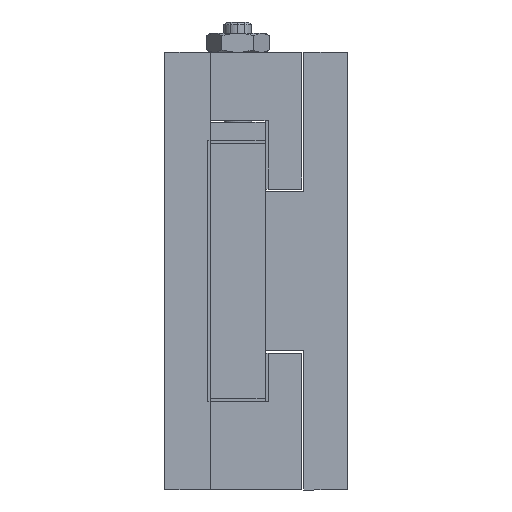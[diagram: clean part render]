
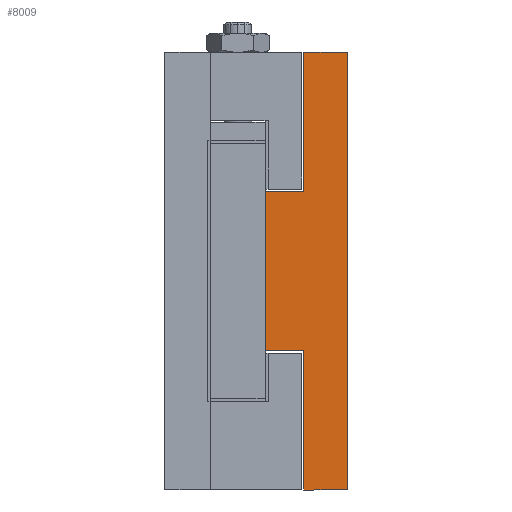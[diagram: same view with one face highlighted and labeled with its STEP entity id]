
A CAD part, left-side view. The second image highlights one B-rep face of the part: STEP entity #8009.
In plain terms, the highlighted planar face has unit normal (-1, 0, 0).
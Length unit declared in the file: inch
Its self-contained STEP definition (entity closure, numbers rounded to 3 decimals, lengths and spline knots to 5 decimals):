
#52 = ORIENTED_EDGE ( 'NONE', *, *, #8024, .T. ) ;
#3123 = CARTESIAN_POINT ( 'NONE',  ( 0., 0.5625, -0.54688 ) ) ;
#3210 = LINE ( 'NONE', #3215, #3274 ) ;
#3214 = DIRECTION ( 'NONE',  ( 0., 0., 1. ) ) ;
#3215 = CARTESIAN_POINT ( 'NONE',  ( 0., 0.5625, 1.5 ) ) ;
#3241 = CARTESIAN_POINT ( 'NONE',  ( 0., 0.5625, 0.54688 ) ) ;
#3274 = VECTOR ( 'NONE', #3214, 39.37008 ) ;
#3520 = CARTESIAN_POINT ( 'NONE',  ( 0., 0., 1.5 ) ) ;
#3521 = LINE ( 'NONE', #3520, #3567 ) ;
#3566 = DIRECTION ( 'NONE',  ( 0., 0., -1. ) ) ;
#3567 = VECTOR ( 'NONE', #3566, 39.37008 ) ;
#4619 = CARTESIAN_POINT ( 'NONE',  ( 0., 0.29688, 0.54688 ) ) ;
#5350 = CARTESIAN_POINT ( 'NONE',  ( 0., 0.29688, -1.5 ) ) ;
#5526 = AXIS2_PLACEMENT_3D ( 'NONE', #5571, #5601, #5600 ) ;
#5554 = FACE_OUTER_BOUND ( 'NONE', #6421, .T. ) ;
#5570 = LINE ( 'NONE', #5572, #5577 ) ;
#5571 = CARTESIAN_POINT ( 'NONE',  ( 0., 0., 1.5 ) ) ;
#5572 = CARTESIAN_POINT ( 'NONE',  ( 0., 0.5625, -0.54688 ) ) ;
#5577 = VECTOR ( 'NONE', #5615, 39.37008 ) ;
#5595 = DIRECTION ( 'NONE',  ( 0., 0., -1. ) ) ;
#5596 = VECTOR ( 'NONE', #5595, 39.37008 ) ;
#5597 = CARTESIAN_POINT ( 'NONE',  ( 0., 0.29688, -1.5 ) ) ;
#5598 = CARTESIAN_POINT ( 'NONE',  ( 0., 0.29688, -0.54688 ) ) ;
#5600 = DIRECTION ( 'NONE',  ( 0., 0., -1. ) ) ;
#5601 = DIRECTION ( 'NONE',  ( 1., 0., 0. ) ) ;
#5602 = DIRECTION ( 'NONE',  ( 0., 1., 0. ) ) ;
#5603 = VECTOR ( 'NONE', #5602, 39.37008 ) ;
#5604 = LINE ( 'NONE', #5597, #5596 ) ;
#5605 = CARTESIAN_POINT ( 'NONE',  ( 0., 0.29688, 1.5 ) ) ;
#5606 = CARTESIAN_POINT ( 'NONE',  ( 0., 0., 1.5 ) ) ;
#5611 = CARTESIAN_POINT ( 'NONE',  ( 0., 0.5625, -1.5 ) ) ;
#5612 = LINE ( 'NONE', #5611, #5603 ) ;
#5613 = CARTESIAN_POINT ( 'NONE',  ( 0., 0., -1.5 ) ) ;
#5614 = PLANE ( 'NONE',  #5526 ) ;
#5615 = DIRECTION ( 'NONE',  ( 0., -1., 0. ) ) ;
#5625 = DIRECTION ( 'NONE',  ( 0., 1., 0. ) ) ;
#5626 = VECTOR ( 'NONE', #5625, 39.37008 ) ;
#5631 = CARTESIAN_POINT ( 'NONE',  ( 0., 0.5625, 0.54688 ) ) ;
#5632 = LINE ( 'NONE', #5631, #5626 ) ;
#5634 = DIRECTION ( 'NONE',  ( 0., 0., -1. ) ) ;
#5635 = VECTOR ( 'NONE', #5634, 39.37008 ) ;
#5636 = CARTESIAN_POINT ( 'NONE',  ( 0., 0.29688, 1.5 ) ) ;
#5637 = LINE ( 'NONE', #5636, #5635 ) ;
#6400 = VERTEX_POINT ( 'NONE', #3123 ) ;
#6421 = EDGE_LOOP ( 'NONE', ( #8005, #8020, #6638, #8008, #6546, #52, #8026, #8025 ) ) ;
#6450 = VERTEX_POINT ( 'NONE', #3241 ) ;
#6469 = EDGE_CURVE ( 'NONE', #6400, #6450, #3210, .T. ) ;
#6546 = ORIENTED_EDGE ( 'NONE', *, *, #8023, .F. ) ;
#6638 = ORIENTED_EDGE ( 'NONE', *, *, #8010, .F. ) ;
#6639 = EDGE_CURVE ( 'NONE', #8013, #8004, #3521, .T. ) ;
#6890 = DIRECTION ( 'NONE',  ( 0., -1., 0. ) ) ;
#6892 = VECTOR ( 'NONE', #6890, 39.37008 ) ;
#6893 = CARTESIAN_POINT ( 'NONE',  ( 0., 0.5625, 1.5 ) ) ;
#6894 = LINE ( 'NONE', #6893, #6892 ) ;
#8002 = EDGE_CURVE ( 'NONE', #6400, #8012, #5570, .T. ) ;
#8004 = VERTEX_POINT ( 'NONE', #5613 ) ;
#8005 = ORIENTED_EDGE ( 'NONE', *, *, #8002, .T. ) ;
#8007 = VERTEX_POINT ( 'NONE', #5605 ) ;
#8008 = ORIENTED_EDGE ( 'NONE', *, *, #6639, .F. ) ;
#8009 = ADVANCED_FACE ( 'NONE', ( #5554 ), #5614, .F. ) ;
#8010 = EDGE_CURVE ( 'NONE', #8004, #8018, #5612, .T. ) ;
#8011 = EDGE_CURVE ( 'NONE', #8012, #8018, #5604, .T. ) ;
#8012 = VERTEX_POINT ( 'NONE', #5598 ) ;
#8013 = VERTEX_POINT ( 'NONE', #5606 ) ;
#8018 = VERTEX_POINT ( 'NONE', #5350 ) ;
#8019 = VERTEX_POINT ( 'NONE', #4619 ) ;
#8020 = ORIENTED_EDGE ( 'NONE', *, *, #8011, .T. ) ;
#8023 = EDGE_CURVE ( 'NONE', #8007, #8013, #6894, .T. ) ;
#8024 = EDGE_CURVE ( 'NONE', #8007, #8019, #5637, .T. ) ;
#8025 = ORIENTED_EDGE ( 'NONE', *, *, #6469, .F. ) ;
#8026 = ORIENTED_EDGE ( 'NONE', *, *, #8033, .T. ) ;
#8033 = EDGE_CURVE ( 'NONE', #8019, #6450, #5632, .T. ) ;
